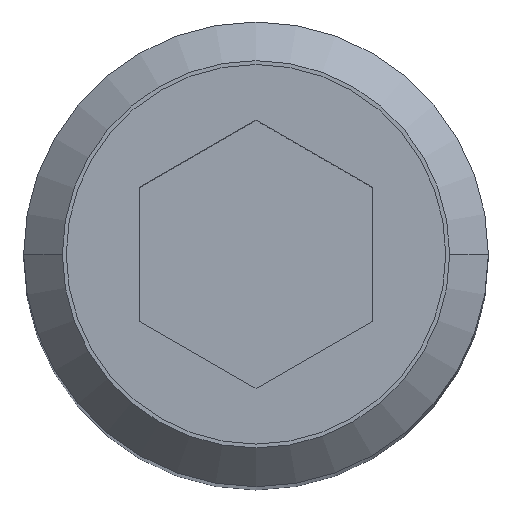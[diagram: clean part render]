
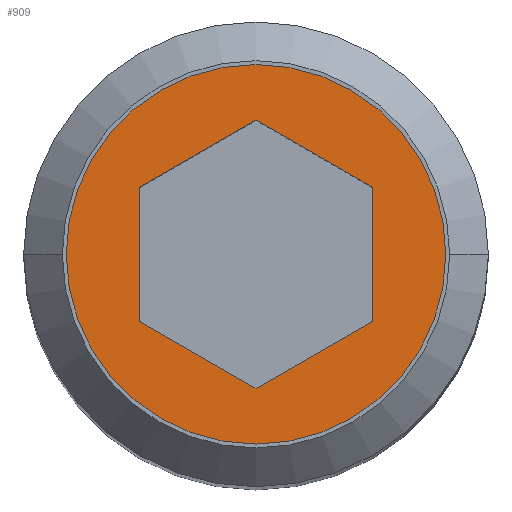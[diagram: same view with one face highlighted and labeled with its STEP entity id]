
A CAD part, top view. The second image highlights one B-rep face of the part: STEP entity #909.
In plain terms, the highlighted planar face has unit normal (0, 0, 1).
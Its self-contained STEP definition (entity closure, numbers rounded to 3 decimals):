
#3 = CARTESIAN_POINT ( 'NONE',  ( 0.75, -1.299, 0. ) ) ;
#9 = LINE ( 'NONE', #3, #225 ) ;
#14 = CARTESIAN_POINT ( 'NONE',  ( -2.45, 0., 0. ) ) ;
#22 = CARTESIAN_POINT ( 'NONE',  ( 2.45, 0., 0. ) ) ;
#36 = CIRCLE ( 'NONE', #253, 2.45 ) ;
#41 = CARTESIAN_POINT ( 'NONE',  ( -1.5, 0., 0. ) ) ;
#51 = CARTESIAN_POINT ( 'NONE',  ( 1.5, -0.866, 0. ) ) ;
#67 = VERTEX_POINT ( 'NONE', #51 ) ;
#70 = EDGE_CURVE ( 'NONE', #792, #544, #147, .T. ) ;
#74 = DIRECTION ( 'NONE',  ( 0., 0., -1. ) ) ;
#80 = CARTESIAN_POINT ( 'NONE',  ( 0., 0., 0. ) ) ;
#83 = CIRCLE ( 'NONE', #399, 2.45 ) ;
#104 = DIRECTION ( 'NONE',  ( -0.866, -0.5, 0. ) ) ;
#111 = AXIS2_PLACEMENT_3D ( 'NONE', #80, #74, #152 ) ;
#116 = VERTEX_POINT ( 'NONE', #358 ) ;
#121 = DIRECTION ( 'NONE',  ( 0.866, -0.5, 0. ) ) ;
#135 = VECTOR ( 'NONE', #104, 1000. ) ;
#139 = ORIENTED_EDGE ( 'NONE', *, *, #360, .F. ) ;
#140 = CARTESIAN_POINT ( 'NONE',  ( 0., -1.732, 0. ) ) ;
#147 = LINE ( 'NONE', #635, #135 ) ;
#152 = DIRECTION ( 'NONE',  ( -1., 0., 0. ) ) ;
#191 = VERTEX_POINT ( 'NONE', #140 ) ;
#197 = DIRECTION ( 'NONE',  ( 0.866, 0.5, 0. ) ) ;
#202 = CARTESIAN_POINT ( 'NONE',  ( 0., 0., 0. ) ) ;
#207 = CARTESIAN_POINT ( 'NONE',  ( -1.5, 0.866, 0. ) ) ;
#222 = ORIENTED_EDGE ( 'NONE', *, *, #580, .F. ) ;
#225 = VECTOR ( 'NONE', #197, 1000. ) ;
#229 = VECTOR ( 'NONE', #336, 1000. ) ;
#250 = ORIENTED_EDGE ( 'NONE', *, *, #440, .F. ) ;
#253 = AXIS2_PLACEMENT_3D ( 'NONE', #835, #775, #715 ) ;
#272 = EDGE_CURVE ( 'NONE', #67, #493, #369, .T. ) ;
#277 = CARTESIAN_POINT ( 'NONE',  ( -0.75, -1.299, 0. ) ) ;
#283 = FACE_BOUND ( 'NONE', #803, .T. ) ;
#284 = ORIENTED_EDGE ( 'NONE', *, *, #272, .F. ) ;
#305 = FACE_OUTER_BOUND ( 'NONE', #517, .T. ) ;
#335 = ORIENTED_EDGE ( 'NONE', *, *, #564, .F. ) ;
#336 = DIRECTION ( 'NONE',  ( -0.866, 0.5, 0. ) ) ;
#346 = DIRECTION ( 'NONE',  ( 0., -1., 0. ) ) ;
#355 = VERTEX_POINT ( 'NONE', #14 ) ;
#358 = CARTESIAN_POINT ( 'NONE',  ( -1.5, -0.866, 0. ) ) ;
#360 = EDGE_CURVE ( 'NONE', #191, #67, #9, .T. ) ;
#369 = LINE ( 'NONE', #676, #939 ) ;
#399 = AXIS2_PLACEMENT_3D ( 'NONE', #202, #853, #840 ) ;
#421 = ORIENTED_EDGE ( 'NONE', *, *, #739, .F. ) ;
#440 = EDGE_CURVE ( 'NONE', #355, #476, #83, .T. ) ;
#476 = VERTEX_POINT ( 'NONE', #22 ) ;
#490 = EDGE_CURVE ( 'NONE', #476, #355, #36, .T. ) ;
#493 = VERTEX_POINT ( 'NONE', #911 ) ;
#507 = ORIENTED_EDGE ( 'NONE', *, *, #490, .F. ) ;
#517 = EDGE_LOOP ( 'NONE', ( #250, #507 ) ) ;
#535 = PLANE ( 'NONE',  #111 ) ;
#544 = VERTEX_POINT ( 'NONE', #207 ) ;
#564 = EDGE_CURVE ( 'NONE', #544, #116, #812, .T. ) ;
#580 = EDGE_CURVE ( 'NONE', #116, #191, #788, .T. ) ;
#594 = CARTESIAN_POINT ( 'NONE',  ( 0.75, 1.299, 0. ) ) ;
#635 = CARTESIAN_POINT ( 'NONE',  ( -0.75, 1.299, 0. ) ) ;
#676 = CARTESIAN_POINT ( 'NONE',  ( 1.5, 0., 0. ) ) ;
#713 = LINE ( 'NONE', #594, #229 ) ;
#715 = DIRECTION ( 'NONE',  ( -1., 0., 0. ) ) ;
#739 = EDGE_CURVE ( 'NONE', #493, #792, #713, .T. ) ;
#747 = CARTESIAN_POINT ( 'NONE',  ( 0., 1.732, 0. ) ) ;
#775 = DIRECTION ( 'NONE',  ( 0., 0., -1. ) ) ;
#786 = VECTOR ( 'NONE', #121, 1000. ) ;
#788 = LINE ( 'NONE', #277, #786 ) ;
#792 = VERTEX_POINT ( 'NONE', #747 ) ;
#799 = VECTOR ( 'NONE', #346, 1000. ) ;
#803 = EDGE_LOOP ( 'NONE', ( #902, #421, #284, #139, #222, #335 ) ) ;
#812 = LINE ( 'NONE', #41, #799 ) ;
#813 = DIRECTION ( 'NONE',  ( 0., 1., 0. ) ) ;
#835 = CARTESIAN_POINT ( 'NONE',  ( 0., 0., 0. ) ) ;
#840 = DIRECTION ( 'NONE',  ( -1., 0., 0. ) ) ;
#853 = DIRECTION ( 'NONE',  ( 0., 0., -1. ) ) ;
#902 = ORIENTED_EDGE ( 'NONE', *, *, #70, .F. ) ;
#909 = ADVANCED_FACE ( 'NONE', ( #305, #283 ), #535, .F. ) ;
#911 = CARTESIAN_POINT ( 'NONE',  ( 1.5, 0.866, 0. ) ) ;
#939 = VECTOR ( 'NONE', #813, 1000. ) ;
